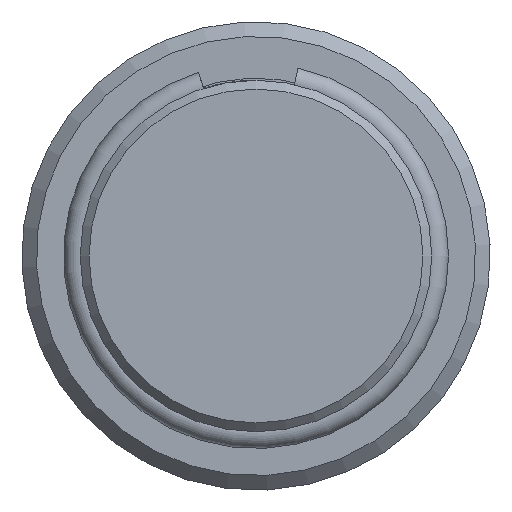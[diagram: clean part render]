
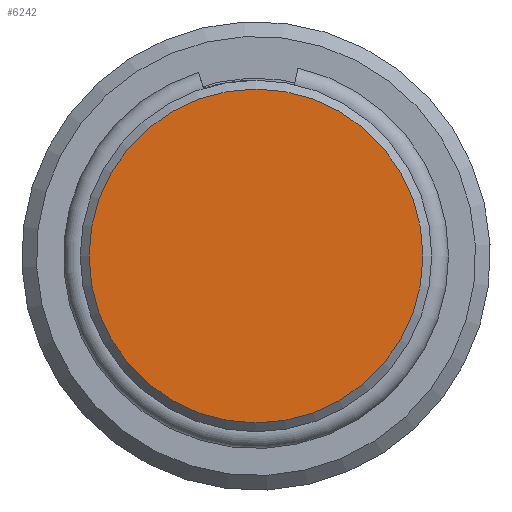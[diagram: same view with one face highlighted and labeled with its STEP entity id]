
A CAD part, left-side view. The second image highlights one B-rep face of the part: STEP entity #6242.
In plain terms, the highlighted planar face has unit normal (-1, 0, 0).
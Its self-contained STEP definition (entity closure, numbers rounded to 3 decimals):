
#937=CIRCLE('',#6629,5.7);
#938=CIRCLE('',#6630,5.7);
#1119=PLANE('',#6631);
#1595=FACE_OUTER_BOUND('',#1948,.T.);
#1948=EDGE_LOOP('',(#4338,#4339));
#2742=VERTEX_POINT('',#8388);
#2743=VERTEX_POINT('',#8390);
#3381=EDGE_CURVE('',#2742,#2743,#937,.T.);
#3382=EDGE_CURVE('',#2743,#2742,#938,.T.);
#4338=ORIENTED_EDGE('',*,*,#3382,.F.);
#4339=ORIENTED_EDGE('',*,*,#3381,.F.);
#6242=ADVANCED_FACE('',(#1595),#1119,.T.);
#6629=AXIS2_PLACEMENT_3D('',#8391,#7062,#7063);
#6630=AXIS2_PLACEMENT_3D('',#8392,#7064,#7065);
#6631=AXIS2_PLACEMENT_3D('',#8393,#7066,#7067);
#7062=DIRECTION('center_axis',(1.,0.,0.));
#7063=DIRECTION('ref_axis',(0.,1.,0.));
#7064=DIRECTION('center_axis',(1.,0.,0.));
#7065=DIRECTION('ref_axis',(0.,1.,0.));
#7066=DIRECTION('center_axis',(-1.,0.,0.));
#7067=DIRECTION('ref_axis',(0.,0.,1.));
#8388=CARTESIAN_POINT('',(0.,-5.7,0.));
#8390=CARTESIAN_POINT('',(0.,5.7,0.));
#8391=CARTESIAN_POINT('Origin',(0.,0.,0.));
#8392=CARTESIAN_POINT('Origin',(0.,0.,0.));
#8393=CARTESIAN_POINT('Origin',(0.,5.35,0.));
